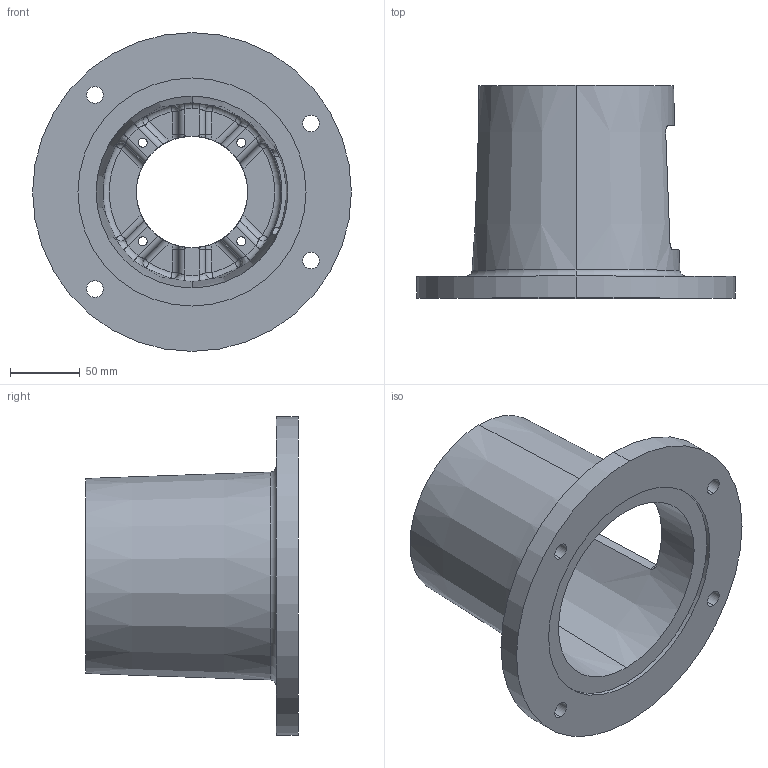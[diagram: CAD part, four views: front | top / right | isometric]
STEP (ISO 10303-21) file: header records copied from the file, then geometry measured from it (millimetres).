
FILE_DESCRIPTION (( 'STEP AP203' ), '1' );
FILE_NAME ('E6446080MS.STEP', '2014-11-03T18:07:04', ( '' ), ( '' ), 'SwSTEP 2.0', 'SolidWorks 2014', '' );
FILE_SCHEMA (( 'CONFIG_CONTROL_DESIGN' ));
Length unit declared in the file: inch
Products named in the file (1): E6446080MS
Bounding box: 228.6 x 152.4 x 228.6 mm (x, y, z)
Volume: 815979.9 mm3; surface area: 198286.3 mm2
Topology: 1 solids, 1 shells, 149 faces, 376 edges, 219 vertices
Faces by surface type: cylinder 54, plane 32, bspline 24, torus 23, sphere 12, cone 4
Entity records: 6385 total; most frequent: CARTESIAN_POINT 2891, ORIENTED_EDGE 728, DIRECTION 714, EDGE_CURVE 364, AXIS2_PLACEMENT_3D 308, VERTEX_POINT 219, CIRCLE 182, EDGE_LOOP 171
